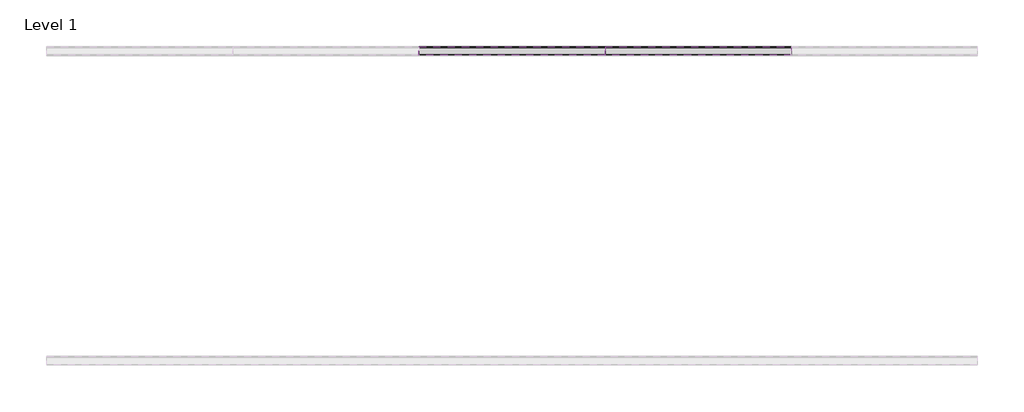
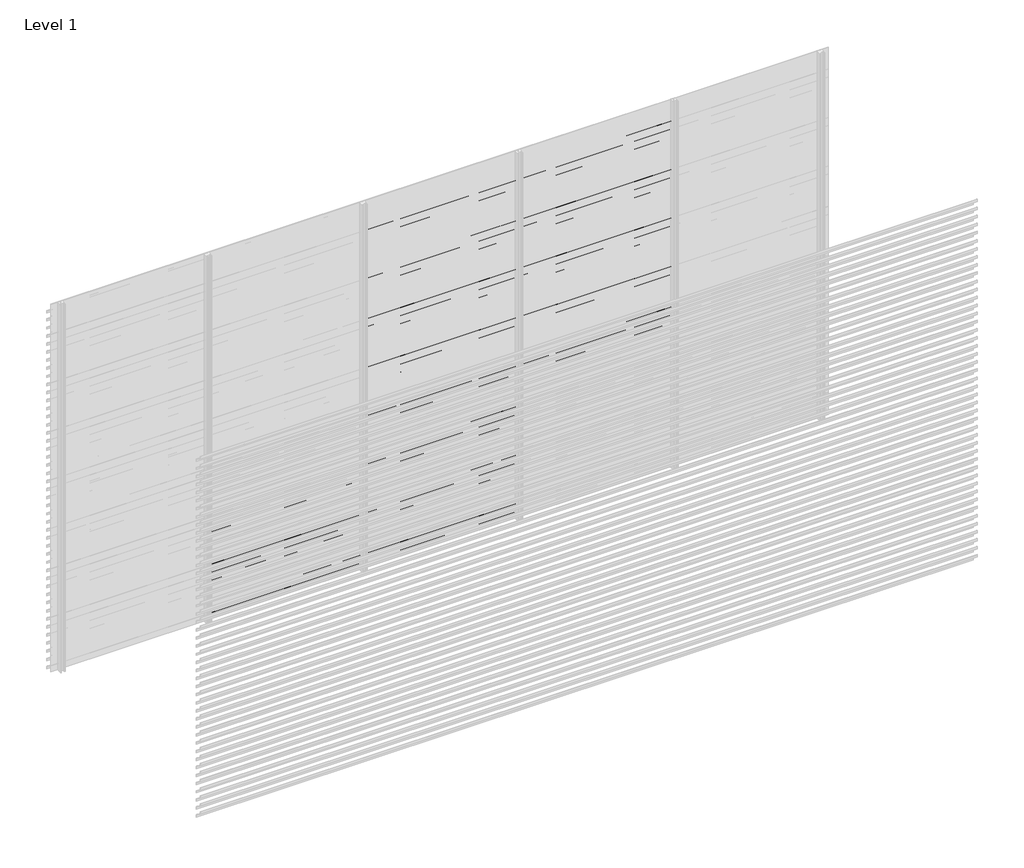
# One storey, part 87 of 540: 84 proxies.
"""IFC4 building model written with IfcOpenShell, lengths in millimetres."""

from ifc_helpers import new_model, si_unit, frame, origin, place, context, project, spatial, polyline, outline, extrude, element, save

model = new_model("IFC4")

# Units and contexts
model_context = context("Model", 3, world=origin())
ifc_project = project(units=[si_unit("LENGTHUNIT", "METRE", prefix="MILLI")], contexts=[model_context])

# Site, building, storey
site = spatial("IfcSite", under=ifc_project)
building = spatial("IfcBuilding", under=site)
storey = spatial("IfcBuildingStorey", under=building, Name="Level 1", Elevation=0.0)

# Proxies
placement = place(None, origin())
element("IfcBuildingElementProxy", 1, Name="Wall Sweeps", at=placement, inside=storey, context=model_context, shape_type="SweptSolid", body=[
    extrude(outline(polyline([(59081.0540136, 669.5), (59081.0540136, 649.5), (59079.8040136, 650.2216933), (59079.8040136, 668.7872415), (59026.0540136, 706.3158044), (59026.0540136, 726.0), (59027.3040136, 726.0), (59027.3040136, 707.0285629), (59081.0540136, 669.5)])), frame((1666.6208099, 0.0, 0.0), z_axis=(1.0, 0.0, 0.0), x_axis=(0.0, 1.0, 0.0)), (0.0, 0.0, 1.0), 1199.9999999),
])
element("IfcBuildingElementProxy", 2, Name="Wall Sweeps", at=placement, inside=storey, context=model_context, shape_type="SweptSolid", body=[
    extrude(outline(polyline([(59081.0540136, 603.5), (59081.0540136, 583.5), (59079.8040136, 584.2216933), (59079.8040136, 602.7872415), (59026.0540136, 640.3158044), (59026.0540136, 660.0), (59027.3040136, 660.0), (59027.3040136, 641.0285629), (59081.0540136, 603.5)])), frame((1666.6208099, 0.0, 0.0), z_axis=(1.0, 0.0, 0.0), x_axis=(0.0, 1.0, 0.0)), (0.0, 0.0, 1.0), 1199.9999999),
])
element("IfcBuildingElementProxy", 3, Name="Wall Sweeps", at=placement, inside=storey, context=model_context, shape_type="SweptSolid", body=[
    extrude(outline(polyline([(59081.0540136, 537.5), (59081.0540136, 517.5), (59079.8040136, 518.2216933), (59079.8040136, 536.7872415), (59026.0540136, 574.3158044), (59026.0540136, 594.0), (59027.3040136, 594.0), (59027.3040136, 575.0285629), (59081.0540136, 537.5)])), frame((1666.6208099, 0.0, 0.0), z_axis=(1.0, 0.0, 0.0), x_axis=(0.0, 1.0, 0.0)), (0.0, 0.0, 1.0), 1199.9999999),
])
element("IfcBuildingElementProxy", 4, Name="Wall Sweeps", at=placement, inside=storey, context=model_context, shape_type="SweptSolid", body=[
    extrude(outline(polyline([(59081.0540136, 471.5), (59081.0540136, 451.5), (59079.8040136, 452.2216933), (59079.8040136, 470.7872415), (59026.0540136, 508.3158044), (59026.0540136, 528.0), (59027.3040136, 528.0), (59027.3040136, 509.0285629), (59081.0540136, 471.5)])), frame((1666.6208099, 0.0, 0.0), z_axis=(1.0, 0.0, 0.0), x_axis=(0.0, 1.0, 0.0)), (0.0, 0.0, 1.0), 1199.9999999),
])
element("IfcBuildingElementProxy", 5, Name="Wall Sweeps", at=placement, inside=storey, context=model_context, shape_type="SweptSolid", body=[
    extrude(outline(polyline([(59081.0540136, 405.5), (59081.0540136, 385.5), (59079.8040136, 386.2216933), (59079.8040136, 404.7872415), (59026.0540136, 442.3158044), (59026.0540136, 462.0), (59027.3040136, 462.0), (59027.3040136, 443.0285629), (59081.0540136, 405.5)])), frame((1666.6208099, 0.0, 0.0), z_axis=(1.0, 0.0, 0.0), x_axis=(0.0, 1.0, 0.0)), (0.0, 0.0, 1.0), 1199.9999999),
])
element("IfcBuildingElementProxy", 6, Name="Wall Sweeps", at=placement, inside=storey, context=model_context, shape_type="SweptSolid", body=[
    extrude(outline(polyline([(59081.0540136, 339.5), (59081.0540136, 319.5), (59079.8040136, 320.2216933), (59079.8040136, 338.7872415), (59026.0540136, 376.3158044), (59026.0540136, 396.0), (59027.3040136, 396.0), (59027.3040136, 377.0285629), (59081.0540136, 339.5)])), frame((1666.6208099, 0.0, 0.0), z_axis=(1.0, 0.0, 0.0), x_axis=(0.0, 1.0, 0.0)), (0.0, 0.0, 1.0), 1199.9999999),
])
element("IfcBuildingElementProxy", 7, Name="Wall Sweeps", at=placement, inside=storey, context=model_context, shape_type="SweptSolid", body=[
    extrude(outline(polyline([(59081.0540136, 273.5), (59081.0540136, 253.5), (59079.8040136, 254.2216933), (59079.8040136, 272.7872415), (59026.0540136, 310.3158044), (59026.0540136, 330.0), (59027.3040136, 330.0), (59027.3040136, 311.0285629), (59081.0540136, 273.5)])), frame((1666.6208099, 0.0, 0.0), z_axis=(1.0, 0.0, 0.0), x_axis=(0.0, 1.0, 0.0)), (0.0, 0.0, 1.0), 1199.9999999),
])
element("IfcBuildingElementProxy", 8, Name="Wall Sweeps", at=placement, inside=storey, context=model_context, shape_type="SweptSolid", body=[
    extrude(outline(polyline([(59081.0540136, 207.5), (59081.0540136, 187.5), (59079.8040136, 188.2216933), (59079.8040136, 206.7872415), (59026.0540136, 244.3158044), (59026.0540136, 264.0), (59027.3040136, 264.0), (59027.3040136, 245.0285629), (59081.0540136, 207.5)])), frame((1666.6208099, 0.0, 0.0), z_axis=(1.0, 0.0, 0.0), x_axis=(0.0, 1.0, 0.0)), (0.0, 0.0, 1.0), 1199.9999999),
])
element("IfcBuildingElementProxy", 9, Name="Wall Sweeps", at=placement, inside=storey, context=model_context, shape_type="SweptSolid", body=[
    extrude(outline(polyline([(59081.0540136, 141.5), (59081.0540136, 121.5), (59079.8040136, 122.2216933), (59079.8040136, 140.7872415), (59026.0540136, 178.3158044), (59026.0540136, 198.0), (59027.3040136, 198.0), (59027.3040136, 179.0285629), (59081.0540136, 141.5)])), frame((1666.6208099, 0.0, 0.0), z_axis=(1.0, 0.0, 0.0), x_axis=(0.0, 1.0, 0.0)), (0.0, 0.0, 1.0), 1199.9999999),
])
element("IfcBuildingElementProxy", 10, Name="Wall Sweeps", at=placement, inside=storey, context=model_context, shape_type="SweptSolid", body=[
    extrude(outline(polyline([(59081.0540136, 75.5), (59081.0540136, 55.5), (59079.8040136, 56.2216933), (59079.8040136, 74.7872415), (59026.0540136, 112.3158044), (59026.0540136, 132.0), (59027.3040136, 132.0), (59027.3040136, 113.0285629), (59081.0540136, 75.5)])), frame((1666.6208099, 0.0, 0.0), z_axis=(1.0, 0.0, 0.0), x_axis=(0.0, 1.0, 0.0)), (0.0, 0.0, 1.0), 1199.9999999),
])
element("IfcBuildingElementProxy", 11, Name="Wall Sweeps", at=placement, inside=storey, context=model_context, shape_type="SweptSolid", body=[
    extrude(outline(polyline([(59081.0540136, 9.5), (59081.0540136, -10.5), (59079.8040136, -9.7783067), (59079.8040136, 8.7872415), (59026.0540136, 46.3158044), (59026.0540136, 66.0), (59027.3040136, 66.0), (59027.3040136, 47.0285629), (59081.0540136, 9.5)])), frame((1666.6208099, 0.0, 0.0), z_axis=(1.0, 0.0, 0.0), x_axis=(0.0, 1.0, 0.0)), (0.0, 0.0, 1.0), 1199.9999999),
])
element("IfcBuildingElementProxy", 12, Name="Wall Sweeps", at=placement, inside=storey, context=model_context, shape_type="SweptSolid", body=[
    extrude(outline(polyline([(59081.0540136, 2913.5), (59081.0540136, 2893.5), (59079.8040136, 2894.2216933), (59079.8040136, 2912.7872415), (59026.0540136, 2950.3158044), (59026.0540136, 2970.0), (59027.3040136, 2970.0), (59027.3040136, 2951.0285629), (59081.0540136, 2913.5)])), frame((2866.6208097, 0.0, 0.0), z_axis=(1.0, 0.0, 0.0), x_axis=(0.0, 1.0, 0.0)), (0.0, 0.0, 1.0), 1199.9999999),
])
element("IfcBuildingElementProxy", 13, Name="Wall Sweeps", at=placement, inside=storey, context=model_context, shape_type="SweptSolid", body=[
    extrude(outline(polyline([(59081.0540136, 2847.5), (59081.0540136, 2827.5), (59079.8040136, 2828.2216933), (59079.8040136, 2846.7872415), (59026.0540136, 2884.3158044), (59026.0540136, 2904.0), (59027.3040136, 2904.0), (59027.3040136, 2885.0285629), (59081.0540136, 2847.5)])), frame((2866.6208097, 0.0, 0.0), z_axis=(1.0, 0.0, 0.0), x_axis=(0.0, 1.0, 0.0)), (0.0, 0.0, 1.0), 1199.9999999),
])
element("IfcBuildingElementProxy", 14, Name="Wall Sweeps", at=placement, inside=storey, context=model_context, shape_type="SweptSolid", body=[
    extrude(outline(polyline([(59081.0540136, 2781.5), (59081.0540136, 2761.5), (59079.8040136, 2762.2216933), (59079.8040136, 2780.7872415), (59026.0540136, 2818.3158044), (59026.0540136, 2838.0), (59027.3040136, 2838.0), (59027.3040136, 2819.0285629), (59081.0540136, 2781.5)])), frame((2866.6208097, 0.0, 0.0), z_axis=(1.0, 0.0, 0.0), x_axis=(0.0, 1.0, 0.0)), (0.0, 0.0, 1.0), 1199.9999999),
])
element("IfcBuildingElementProxy", 15, Name="Wall Sweeps", at=placement, inside=storey, context=model_context, shape_type="SweptSolid", body=[
    extrude(outline(polyline([(59081.0540136, 2715.5), (59081.0540136, 2695.5), (59079.8040136, 2696.2216933), (59079.8040136, 2714.7872415), (59026.0540136, 2752.3158044), (59026.0540136, 2772.0), (59027.3040136, 2772.0), (59027.3040136, 2753.0285629), (59081.0540136, 2715.5)])), frame((2866.6208097, 0.0, 0.0), z_axis=(1.0, 0.0, 0.0), x_axis=(0.0, 1.0, 0.0)), (0.0, 0.0, 1.0), 1199.9999999),
])
element("IfcBuildingElementProxy", 16, Name="Wall Sweeps", at=placement, inside=storey, context=model_context, shape_type="SweptSolid", body=[
    extrude(outline(polyline([(59081.0540136, 2649.5), (59081.0540136, 2629.5), (59079.8040136, 2630.2216933), (59079.8040136, 2648.7872415), (59026.0540136, 2686.3158044), (59026.0540136, 2706.0), (59027.3040136, 2706.0), (59027.3040136, 2687.0285629), (59081.0540136, 2649.5)])), frame((2866.6208097, 0.0, 0.0), z_axis=(1.0, 0.0, 0.0), x_axis=(0.0, 1.0, 0.0)), (0.0, 0.0, 1.0), 1199.9999999),
])
element("IfcBuildingElementProxy", 17, Name="Wall Sweeps", at=placement, inside=storey, context=model_context, shape_type="SweptSolid", body=[
    extrude(outline(polyline([(59081.0540136, 2583.5), (59081.0540136, 2563.5), (59079.8040136, 2564.2216933), (59079.8040136, 2582.7872415), (59026.0540136, 2620.3158044), (59026.0540136, 2640.0), (59027.3040136, 2640.0), (59027.3040136, 2621.0285629), (59081.0540136, 2583.5)])), frame((2866.6208097, 0.0, 0.0), z_axis=(1.0, 0.0, 0.0), x_axis=(0.0, 1.0, 0.0)), (0.0, 0.0, 1.0), 1199.9999999),
])
element("IfcBuildingElementProxy", 18, Name="Wall Sweeps", at=placement, inside=storey, context=model_context, shape_type="SweptSolid", body=[
    extrude(outline(polyline([(59081.0540136, 2517.5), (59081.0540136, 2497.5), (59079.8040136, 2498.2216933), (59079.8040136, 2516.7872415), (59026.0540136, 2554.3158044), (59026.0540136, 2574.0), (59027.3040136, 2574.0), (59027.3040136, 2555.0285629), (59081.0540136, 2517.5)])), frame((2866.6208097, 0.0, 0.0), z_axis=(1.0, 0.0, 0.0), x_axis=(0.0, 1.0, 0.0)), (0.0, 0.0, 1.0), 1199.9999999),
])
element("IfcBuildingElementProxy", 19, Name="Wall Sweeps", at=placement, inside=storey, context=model_context, shape_type="SweptSolid", body=[
    extrude(outline(polyline([(59081.0540136, 2451.5), (59081.0540136, 2431.5), (59079.8040136, 2432.2216933), (59079.8040136, 2450.7872415), (59026.0540136, 2488.3158044), (59026.0540136, 2508.0), (59027.3040136, 2508.0), (59027.3040136, 2489.0285629), (59081.0540136, 2451.5)])), frame((2866.6208097, 0.0, 0.0), z_axis=(1.0, 0.0, 0.0), x_axis=(0.0, 1.0, 0.0)), (0.0, 0.0, 1.0), 1199.9999999),
])
element("IfcBuildingElementProxy", 20, Name="Wall Sweeps", at=placement, inside=storey, context=model_context, shape_type="SweptSolid", body=[
    extrude(outline(polyline([(59081.0540136, 2385.5), (59081.0540136, 2365.5), (59079.8040136, 2366.2216933), (59079.8040136, 2384.7872415), (59026.0540136, 2422.3158044), (59026.0540136, 2442.0), (59027.3040136, 2442.0), (59027.3040136, 2423.0285629), (59081.0540136, 2385.5)])), frame((2866.6208097, 0.0, 0.0), z_axis=(1.0, 0.0, 0.0), x_axis=(0.0, 1.0, 0.0)), (0.0, 0.0, 1.0), 1199.9999999),
])
element("IfcBuildingElementProxy", 21, Name="Wall Sweeps", at=placement, inside=storey, context=model_context, shape_type="SweptSolid", body=[
    extrude(outline(polyline([(59081.0540136, 2319.5), (59081.0540136, 2299.5), (59079.8040136, 2300.2216933), (59079.8040136, 2318.7872415), (59026.0540136, 2356.3158044), (59026.0540136, 2376.0), (59027.3040136, 2376.0), (59027.3040136, 2357.0285629), (59081.0540136, 2319.5)])), frame((2866.6208097, 0.0, 0.0), z_axis=(1.0, 0.0, 0.0), x_axis=(0.0, 1.0, 0.0)), (0.0, 0.0, 1.0), 1199.9999999),
])
element("IfcBuildingElementProxy", 22, Name="Wall Sweeps", at=placement, inside=storey, context=model_context, shape_type="SweptSolid", body=[
    extrude(outline(polyline([(59081.0540136, 2253.5), (59081.0540136, 2233.5), (59079.8040136, 2234.2216933), (59079.8040136, 2252.7872415), (59026.0540136, 2290.3158044), (59026.0540136, 2310.0), (59027.3040136, 2310.0), (59027.3040136, 2291.0285629), (59081.0540136, 2253.5)])), frame((2866.6208097, 0.0, 0.0), z_axis=(1.0, 0.0, 0.0), x_axis=(0.0, 1.0, 0.0)), (0.0, 0.0, 1.0), 1199.9999999),
])
element("IfcBuildingElementProxy", 23, Name="Wall Sweeps", at=placement, inside=storey, context=model_context, shape_type="SweptSolid", body=[
    extrude(outline(polyline([(59081.0540136, 2187.5), (59081.0540136, 2167.5), (59079.8040136, 2168.2216933), (59079.8040136, 2186.7872415), (59026.0540136, 2224.3158044), (59026.0540136, 2244.0), (59027.3040136, 2244.0), (59027.3040136, 2225.0285629), (59081.0540136, 2187.5)])), frame((2866.6208097, 0.0, 0.0), z_axis=(1.0, 0.0, 0.0), x_axis=(0.0, 1.0, 0.0)), (0.0, 0.0, 1.0), 1199.9999999),
])
element("IfcBuildingElementProxy", 24, Name="Wall Sweeps", at=placement, inside=storey, context=model_context, shape_type="SweptSolid", body=[
    extrude(outline(polyline([(59081.0540136, 2121.5), (59081.0540136, 2101.5), (59079.8040136, 2102.2216933), (59079.8040136, 2120.7872415), (59026.0540136, 2158.3158044), (59026.0540136, 2178.0), (59027.3040136, 2178.0), (59027.3040136, 2159.0285629), (59081.0540136, 2121.5)])), frame((2866.6208097, 0.0, 0.0), z_axis=(1.0, 0.0, 0.0), x_axis=(0.0, 1.0, 0.0)), (0.0, 0.0, 1.0), 1199.9999999),
])
element("IfcBuildingElementProxy", 25, Name="Wall Sweeps", at=placement, inside=storey, context=model_context, shape_type="SweptSolid", body=[
    extrude(outline(polyline([(59081.0540136, 2055.5), (59081.0540136, 2035.5), (59079.8040136, 2036.2216933), (59079.8040136, 2054.7872415), (59026.0540136, 2092.3158044), (59026.0540136, 2112.0), (59027.3040136, 2112.0), (59027.3040136, 2093.0285629), (59081.0540136, 2055.5)])), frame((2866.6208097, 0.0, 0.0), z_axis=(1.0, 0.0, 0.0), x_axis=(0.0, 1.0, 0.0)), (0.0, 0.0, 1.0), 1199.9999999),
])
element("IfcBuildingElementProxy", 26, Name="Wall Sweeps", at=placement, inside=storey, context=model_context, shape_type="SweptSolid", body=[
    extrude(outline(polyline([(59081.0540136, 1989.5), (59081.0540136, 1969.5), (59079.8040136, 1970.2216933), (59079.8040136, 1988.7872415), (59026.0540136, 2026.3158044), (59026.0540136, 2046.0), (59027.3040136, 2046.0), (59027.3040136, 2027.0285629), (59081.0540136, 1989.5)])), frame((2866.6208097, 0.0, 0.0), z_axis=(1.0, 0.0, 0.0), x_axis=(0.0, 1.0, 0.0)), (0.0, 0.0, 1.0), 1199.9999999),
])
element("IfcBuildingElementProxy", 27, Name="Wall Sweeps", at=placement, inside=storey, context=model_context, shape_type="SweptSolid", body=[
    extrude(outline(polyline([(59081.0540136, 1923.5), (59081.0540136, 1903.5), (59079.8040136, 1904.2216933), (59079.8040136, 1922.7872415), (59026.0540136, 1960.3158044), (59026.0540136, 1980.0), (59027.3040136, 1980.0), (59027.3040136, 1961.0285629), (59081.0540136, 1923.5)])), frame((2866.6208097, 0.0, 0.0), z_axis=(1.0, 0.0, 0.0), x_axis=(0.0, 1.0, 0.0)), (0.0, 0.0, 1.0), 1199.9999999),
])
element("IfcBuildingElementProxy", 28, Name="Wall Sweeps", at=placement, inside=storey, context=model_context, shape_type="SweptSolid", body=[
    extrude(outline(polyline([(59081.0540136, 1857.5), (59081.0540136, 1837.5), (59079.8040136, 1838.2216933), (59079.8040136, 1856.7872415), (59026.0540136, 1894.3158044), (59026.0540136, 1914.0), (59027.3040136, 1914.0), (59027.3040136, 1895.0285629), (59081.0540136, 1857.5)])), frame((2866.6208097, 0.0, 0.0), z_axis=(1.0, 0.0, 0.0), x_axis=(0.0, 1.0, 0.0)), (0.0, 0.0, 1.0), 1199.9999999),
])
element("IfcBuildingElementProxy", 29, Name="Wall Sweeps", at=placement, inside=storey, context=model_context, shape_type="SweptSolid", body=[
    extrude(outline(polyline([(59081.0540136, 1791.5), (59081.0540136, 1771.5), (59079.8040136, 1772.2216933), (59079.8040136, 1790.7872415), (59026.0540136, 1828.3158044), (59026.0540136, 1848.0), (59027.3040136, 1848.0), (59027.3040136, 1829.0285629), (59081.0540136, 1791.5)])), frame((2866.6208097, 0.0, 0.0), z_axis=(1.0, 0.0, 0.0), x_axis=(0.0, 1.0, 0.0)), (0.0, 0.0, 1.0), 1199.9999999),
])
element("IfcBuildingElementProxy", 30, Name="Wall Sweeps", at=placement, inside=storey, context=model_context, shape_type="SweptSolid", body=[
    extrude(outline(polyline([(59081.0540136, 1725.5), (59081.0540136, 1705.5), (59079.8040136, 1706.2216933), (59079.8040136, 1724.7872415), (59026.0540136, 1762.3158044), (59026.0540136, 1782.0), (59027.3040136, 1782.0), (59027.3040136, 1763.0285629), (59081.0540136, 1725.5)])), frame((2866.6208097, 0.0, 0.0), z_axis=(1.0, 0.0, 0.0), x_axis=(0.0, 1.0, 0.0)), (0.0, 0.0, 1.0), 1199.9999999),
])
element("IfcBuildingElementProxy", 31, Name="Wall Sweeps", at=placement, inside=storey, context=model_context, shape_type="SweptSolid", body=[
    extrude(outline(polyline([(59081.0540136, 1659.5), (59081.0540136, 1639.5), (59079.8040136, 1640.2216933), (59079.8040136, 1658.7872415), (59026.0540136, 1696.3158044), (59026.0540136, 1716.0), (59027.3040136, 1716.0), (59027.3040136, 1697.0285629), (59081.0540136, 1659.5)])), frame((2866.6208097, 0.0, 0.0), z_axis=(1.0, 0.0, 0.0), x_axis=(0.0, 1.0, 0.0)), (0.0, 0.0, 1.0), 1199.9999999),
])
element("IfcBuildingElementProxy", 32, Name="Wall Sweeps", at=placement, inside=storey, context=model_context, shape_type="SweptSolid", body=[
    extrude(outline(polyline([(59081.0540136, 1593.5), (59081.0540136, 1573.5), (59079.8040136, 1574.2216933), (59079.8040136, 1592.7872415), (59026.0540136, 1630.3158044), (59026.0540136, 1650.0), (59027.3040136, 1650.0), (59027.3040136, 1631.0285629), (59081.0540136, 1593.5)])), frame((2866.6208097, 0.0, 0.0), z_axis=(1.0, 0.0, 0.0), x_axis=(0.0, 1.0, 0.0)), (0.0, 0.0, 1.0), 1199.9999999),
])
element("IfcBuildingElementProxy", 33, Name="Wall Sweeps", at=placement, inside=storey, context=model_context, shape_type="SweptSolid", body=[
    extrude(outline(polyline([(59081.0540136, 1527.5), (59081.0540136, 1507.5), (59079.8040136, 1508.2216933), (59079.8040136, 1526.7872415), (59026.0540136, 1564.3158044), (59026.0540136, 1584.0), (59027.3040136, 1584.0), (59027.3040136, 1565.0285629), (59081.0540136, 1527.5)])), frame((2866.6208097, 0.0, 0.0), z_axis=(1.0, 0.0, 0.0), x_axis=(0.0, 1.0, 0.0)), (0.0, 0.0, 1.0), 1199.9999999),
])
element("IfcBuildingElementProxy", 34, Name="Wall Sweeps", at=placement, inside=storey, context=model_context, shape_type="SweptSolid", body=[
    extrude(outline(polyline([(59081.0540136, 1461.5), (59081.0540136, 1441.5), (59079.8040136, 1442.2216933), (59079.8040136, 1460.7872415), (59026.0540136, 1498.3158044), (59026.0540136, 1518.0), (59027.3040136, 1518.0), (59027.3040136, 1499.0285629), (59081.0540136, 1461.5)])), frame((2866.6208097, 0.0, 0.0), z_axis=(1.0, 0.0, 0.0), x_axis=(0.0, 1.0, 0.0)), (0.0, 0.0, 1.0), 1199.9999999),
])
element("IfcBuildingElementProxy", 35, Name="Wall Sweeps", at=placement, inside=storey, context=model_context, shape_type="SweptSolid", body=[
    extrude(outline(polyline([(59081.0540136, 1395.5), (59081.0540136, 1375.5), (59079.8040136, 1376.2216933), (59079.8040136, 1394.7872415), (59026.0540136, 1432.3158044), (59026.0540136, 1452.0), (59027.3040136, 1452.0), (59027.3040136, 1433.0285629), (59081.0540136, 1395.5)])), frame((2866.6208097, 0.0, 0.0), z_axis=(1.0, 0.0, 0.0), x_axis=(0.0, 1.0, 0.0)), (0.0, 0.0, 1.0), 1199.9999999),
])
element("IfcBuildingElementProxy", 36, Name="Wall Sweeps", at=placement, inside=storey, context=model_context, shape_type="SweptSolid", body=[
    extrude(outline(polyline([(59081.0540136, 1329.5), (59081.0540136, 1309.5), (59079.8040136, 1310.2216933), (59079.8040136, 1328.7872415), (59026.0540136, 1366.3158044), (59026.0540136, 1386.0), (59027.3040136, 1386.0), (59027.3040136, 1367.0285629), (59081.0540136, 1329.5)])), frame((2866.6208097, 0.0, 0.0), z_axis=(1.0, 0.0, 0.0), x_axis=(0.0, 1.0, 0.0)), (0.0, 0.0, 1.0), 1199.9999999),
])
element("IfcBuildingElementProxy", 37, Name="Wall Sweeps", at=placement, inside=storey, context=model_context, shape_type="SweptSolid", body=[
    extrude(outline(polyline([(59081.0540136, 1263.5), (59081.0540136, 1243.5), (59079.8040136, 1244.2216933), (59079.8040136, 1262.7872415), (59026.0540136, 1300.3158044), (59026.0540136, 1320.0), (59027.3040136, 1320.0), (59027.3040136, 1301.0285629), (59081.0540136, 1263.5)])), frame((2866.6208097, 0.0, 0.0), z_axis=(1.0, 0.0, 0.0), x_axis=(0.0, 1.0, 0.0)), (0.0, 0.0, 1.0), 1199.9999999),
])
element("IfcBuildingElementProxy", 38, Name="Wall Sweeps", at=placement, inside=storey, context=model_context, shape_type="SweptSolid", body=[
    extrude(outline(polyline([(59081.0540136, 1197.5), (59081.0540136, 1177.5), (59079.8040136, 1178.2216933), (59079.8040136, 1196.7872415), (59026.0540136, 1234.3158044), (59026.0540136, 1254.0), (59027.3040136, 1254.0), (59027.3040136, 1235.0285629), (59081.0540136, 1197.5)])), frame((2866.6208097, 0.0, 0.0), z_axis=(1.0, 0.0, 0.0), x_axis=(0.0, 1.0, 0.0)), (0.0, 0.0, 1.0), 1199.9999999),
])
element("IfcBuildingElementProxy", 39, Name="Wall Sweeps", at=placement, inside=storey, context=model_context, shape_type="SweptSolid", body=[
    extrude(outline(polyline([(59081.0540136, 1131.5), (59081.0540136, 1111.5), (59079.8040136, 1112.2216933), (59079.8040136, 1130.7872415), (59026.0540136, 1168.3158044), (59026.0540136, 1188.0), (59027.3040136, 1188.0), (59027.3040136, 1169.0285629), (59081.0540136, 1131.5)])), frame((2866.6208097, 0.0, 0.0), z_axis=(1.0, 0.0, 0.0), x_axis=(0.0, 1.0, 0.0)), (0.0, 0.0, 1.0), 1199.9999999),
])
element("IfcBuildingElementProxy", 40, Name="Wall Sweeps", at=placement, inside=storey, context=model_context, shape_type="SweptSolid", body=[
    extrude(outline(polyline([(59081.0540136, 1065.5), (59081.0540136, 1045.5), (59079.8040136, 1046.2216933), (59079.8040136, 1064.7872415), (59026.0540136, 1102.3158044), (59026.0540136, 1122.0), (59027.3040136, 1122.0), (59027.3040136, 1103.0285629), (59081.0540136, 1065.5)])), frame((2866.6208097, 0.0, 0.0), z_axis=(1.0, 0.0, 0.0), x_axis=(0.0, 1.0, 0.0)), (0.0, 0.0, 1.0), 1199.9999999),
])
element("IfcBuildingElementProxy", 41, Name="Wall Sweeps", at=placement, inside=storey, context=model_context, shape_type="SweptSolid", body=[
    extrude(outline(polyline([(59081.0540136, 999.5), (59081.0540136, 979.5), (59079.8040136, 980.2216933), (59079.8040136, 998.7872415), (59026.0540136, 1036.3158044), (59026.0540136, 1056.0), (59027.3040136, 1056.0), (59027.3040136, 1037.0285629), (59081.0540136, 999.5)])), frame((2866.6208097, 0.0, 0.0), z_axis=(1.0, 0.0, 0.0), x_axis=(0.0, 1.0, 0.0)), (0.0, 0.0, 1.0), 1199.9999999),
])
element("IfcBuildingElementProxy", 42, Name="Wall Sweeps", at=placement, inside=storey, context=model_context, shape_type="SweptSolid", body=[
    extrude(outline(polyline([(59081.0540136, 933.5), (59081.0540136, 913.5), (59079.8040136, 914.2216933), (59079.8040136, 932.7872415), (59026.0540136, 970.3158044), (59026.0540136, 990.0), (59027.3040136, 990.0), (59027.3040136, 971.0285629), (59081.0540136, 933.5)])), frame((2866.6208097, 0.0, 0.0), z_axis=(1.0, 0.0, 0.0), x_axis=(0.0, 1.0, 0.0)), (0.0, 0.0, 1.0), 1199.9999999),
])
element("IfcBuildingElementProxy", 43, Name="Wall Sweeps", at=placement, inside=storey, context=model_context, shape_type="SweptSolid", body=[
    extrude(outline(polyline([(59081.0540136, 867.5), (59081.0540136, 847.5), (59079.8040136, 848.2216933), (59079.8040136, 866.7872415), (59026.0540136, 904.3158044), (59026.0540136, 924.0), (59027.3040136, 924.0), (59027.3040136, 905.0285629), (59081.0540136, 867.5)])), frame((2866.6208097, 0.0, 0.0), z_axis=(1.0, 0.0, 0.0), x_axis=(0.0, 1.0, 0.0)), (0.0, 0.0, 1.0), 1199.9999999),
])
element("IfcBuildingElementProxy", 44, Name="Wall Sweeps", at=placement, inside=storey, context=model_context, shape_type="SweptSolid", body=[
    extrude(outline(polyline([(59081.0540136, 801.5), (59081.0540136, 781.5), (59079.8040136, 782.2216933), (59079.8040136, 800.7872415), (59026.0540136, 838.3158044), (59026.0540136, 858.0), (59027.3040136, 858.0), (59027.3040136, 839.0285629), (59081.0540136, 801.5)])), frame((2866.6208097, 0.0, 0.0), z_axis=(1.0, 0.0, 0.0), x_axis=(0.0, 1.0, 0.0)), (0.0, 0.0, 1.0), 1199.9999999),
])
element("IfcBuildingElementProxy", 45, Name="Wall Sweeps", at=placement, inside=storey, context=model_context, shape_type="SweptSolid", body=[
    extrude(outline(polyline([(59081.0540136, 735.5), (59081.0540136, 715.5), (59079.8040136, 716.2216933), (59079.8040136, 734.7872415), (59026.0540136, 772.3158044), (59026.0540136, 792.0), (59027.3040136, 792.0), (59027.3040136, 773.0285629), (59081.0540136, 735.5)])), frame((2866.6208097, 0.0, 0.0), z_axis=(1.0, 0.0, 0.0), x_axis=(0.0, 1.0, 0.0)), (0.0, 0.0, 1.0), 1199.9999999),
])
element("IfcBuildingElementProxy", 46, Name="Wall Sweeps", at=placement, inside=storey, context=model_context, shape_type="SweptSolid", body=[
    extrude(outline(polyline([(59081.0540136, 669.5), (59081.0540136, 649.5), (59079.8040136, 650.2216933), (59079.8040136, 668.7872415), (59026.0540136, 706.3158044), (59026.0540136, 726.0), (59027.3040136, 726.0), (59027.3040136, 707.0285629), (59081.0540136, 669.5)])), frame((2866.6208097, 0.0, 0.0), z_axis=(1.0, 0.0, 0.0), x_axis=(0.0, 1.0, 0.0)), (0.0, 0.0, 1.0), 1199.9999999),
])
element("IfcBuildingElementProxy", 47, Name="Wall Sweeps", at=placement, inside=storey, context=model_context, shape_type="SweptSolid", body=[
    extrude(outline(polyline([(59081.0540136, 603.5), (59081.0540136, 583.5), (59079.8040136, 584.2216933), (59079.8040136, 602.7872415), (59026.0540136, 640.3158044), (59026.0540136, 660.0), (59027.3040136, 660.0), (59027.3040136, 641.0285629), (59081.0540136, 603.5)])), frame((2866.6208097, 0.0, 0.0), z_axis=(1.0, 0.0, 0.0), x_axis=(0.0, 1.0, 0.0)), (0.0, 0.0, 1.0), 1199.9999999),
])
element("IfcBuildingElementProxy", 48, Name="Wall Sweeps", at=placement, inside=storey, context=model_context, shape_type="SweptSolid", body=[
    extrude(outline(polyline([(59081.0540136, 537.5), (59081.0540136, 517.5), (59079.8040136, 518.2216933), (59079.8040136, 536.7872415), (59026.0540136, 574.3158044), (59026.0540136, 594.0), (59027.3040136, 594.0), (59027.3040136, 575.0285629), (59081.0540136, 537.5)])), frame((2866.6208097, 0.0, 0.0), z_axis=(1.0, 0.0, 0.0), x_axis=(0.0, 1.0, 0.0)), (0.0, 0.0, 1.0), 1199.9999999),
])
element("IfcBuildingElementProxy", 49, Name="Wall Sweeps", at=placement, inside=storey, context=model_context, shape_type="SweptSolid", body=[
    extrude(outline(polyline([(59081.0540136, 471.5), (59081.0540136, 451.5), (59079.8040136, 452.2216933), (59079.8040136, 470.7872415), (59026.0540136, 508.3158044), (59026.0540136, 528.0), (59027.3040136, 528.0), (59027.3040136, 509.0285629), (59081.0540136, 471.5)])), frame((2866.6208097, 0.0, 0.0), z_axis=(1.0, 0.0, 0.0), x_axis=(0.0, 1.0, 0.0)), (0.0, 0.0, 1.0), 1199.9999999),
])
element("IfcBuildingElementProxy", 50, Name="Wall Sweeps", at=placement, inside=storey, context=model_context, shape_type="SweptSolid", body=[
    extrude(outline(polyline([(59081.0540136, 405.5), (59081.0540136, 385.5), (59079.8040136, 386.2216933), (59079.8040136, 404.7872415), (59026.0540136, 442.3158044), (59026.0540136, 462.0), (59027.3040136, 462.0), (59027.3040136, 443.0285629), (59081.0540136, 405.5)])), frame((2866.6208097, 0.0, 0.0), z_axis=(1.0, 0.0, 0.0), x_axis=(0.0, 1.0, 0.0)), (0.0, 0.0, 1.0), 1199.9999999),
])
element("IfcBuildingElementProxy", 51, Name="Wall Sweeps", at=placement, inside=storey, context=model_context, shape_type="SweptSolid", body=[
    extrude(outline(polyline([(59081.0540136, 339.5), (59081.0540136, 319.5), (59079.8040136, 320.2216933), (59079.8040136, 338.7872415), (59026.0540136, 376.3158044), (59026.0540136, 396.0), (59027.3040136, 396.0), (59027.3040136, 377.0285629), (59081.0540136, 339.5)])), frame((2866.6208097, 0.0, 0.0), z_axis=(1.0, 0.0, 0.0), x_axis=(0.0, 1.0, 0.0)), (0.0, 0.0, 1.0), 1199.9999999),
])
element("IfcBuildingElementProxy", 52, Name="Wall Sweeps", at=placement, inside=storey, context=model_context, shape_type="SweptSolid", body=[
    extrude(outline(polyline([(59081.0540136, 273.5), (59081.0540136, 253.5), (59079.8040136, 254.2216933), (59079.8040136, 272.7872415), (59026.0540136, 310.3158044), (59026.0540136, 330.0), (59027.3040136, 330.0), (59027.3040136, 311.0285629), (59081.0540136, 273.5)])), frame((2866.6208097, 0.0, 0.0), z_axis=(1.0, 0.0, 0.0), x_axis=(0.0, 1.0, 0.0)), (0.0, 0.0, 1.0), 1199.9999999),
])
element("IfcBuildingElementProxy", 53, Name="Wall Sweeps", at=placement, inside=storey, context=model_context, shape_type="SweptSolid", body=[
    extrude(outline(polyline([(59081.0540136, 207.5), (59081.0540136, 187.5), (59079.8040136, 188.2216933), (59079.8040136, 206.7872415), (59026.0540136, 244.3158044), (59026.0540136, 264.0), (59027.3040136, 264.0), (59027.3040136, 245.0285629), (59081.0540136, 207.5)])), frame((2866.6208097, 0.0, 0.0), z_axis=(1.0, 0.0, 0.0), x_axis=(0.0, 1.0, 0.0)), (0.0, 0.0, 1.0), 1199.9999999),
])
element("IfcBuildingElementProxy", 54, Name="Wall Sweeps", at=placement, inside=storey, context=model_context, shape_type="SweptSolid", body=[
    extrude(outline(polyline([(59081.0540136, 141.5), (59081.0540136, 121.5), (59079.8040136, 122.2216933), (59079.8040136, 140.7872415), (59026.0540136, 178.3158044), (59026.0540136, 198.0), (59027.3040136, 198.0), (59027.3040136, 179.0285629), (59081.0540136, 141.5)])), frame((2866.6208097, 0.0, 0.0), z_axis=(1.0, 0.0, 0.0), x_axis=(0.0, 1.0, 0.0)), (0.0, 0.0, 1.0), 1199.9999999),
])
element("IfcBuildingElementProxy", 55, Name="Wall Sweeps", at=placement, inside=storey, context=model_context, shape_type="SweptSolid", body=[
    extrude(outline(polyline([(59081.0540136, 75.5), (59081.0540136, 55.5), (59079.8040136, 56.2216933), (59079.8040136, 74.7872415), (59026.0540136, 112.3158044), (59026.0540136, 132.0), (59027.3040136, 132.0), (59027.3040136, 113.0285629), (59081.0540136, 75.5)])), frame((2866.6208097, 0.0, 0.0), z_axis=(1.0, 0.0, 0.0), x_axis=(0.0, 1.0, 0.0)), (0.0, 0.0, 1.0), 1199.9999999),
])
element("IfcBuildingElementProxy", 56, Name="Wall Sweeps", at=placement, inside=storey, context=model_context, shape_type="SweptSolid", body=[
    extrude(outline(polyline([(59081.0540136, 9.5), (59081.0540136, -10.5), (59079.8040136, -9.7783067), (59079.8040136, 8.7872415), (59026.0540136, 46.3158044), (59026.0540136, 66.0), (59027.3040136, 66.0), (59027.3040136, 47.0285629), (59081.0540136, 9.5)])), frame((2866.6208097, 0.0, 0.0), z_axis=(1.0, 0.0, 0.0), x_axis=(0.0, 1.0, 0.0)), (0.0, 0.0, 1.0), 1199.9999999),
])
element("IfcBuildingElementProxy", 57, Name="Wall Sweeps", at=placement, inside=storey, context=model_context, shape_type="SweptSolid", body=[
    extrude(outline(polyline([(59081.0540136, 2913.5), (59081.0540136, 2893.5), (59079.8040136, 2894.2216933), (59079.8040136, 2912.7872415), (59026.0540136, 2950.3158044), (59026.0540136, 2970.0), (59027.3040136, 2970.0), (59027.3040136, 2951.0285629), (59081.0540136, 2913.5)])), frame((4066.6208096, 0.0, 0.0), z_axis=(1.0, 0.0, 0.0), x_axis=(0.0, 1.0, 0.0)), (0.0, 0.0, 1.0), 1199.9999999),
])
element("IfcBuildingElementProxy", 58, Name="Wall Sweeps", at=placement, inside=storey, context=model_context, shape_type="SweptSolid", body=[
    extrude(outline(polyline([(59081.0540136, 2847.5), (59081.0540136, 2827.5), (59079.8040136, 2828.2216933), (59079.8040136, 2846.7872415), (59026.0540136, 2884.3158044), (59026.0540136, 2904.0), (59027.3040136, 2904.0), (59027.3040136, 2885.0285629), (59081.0540136, 2847.5)])), frame((4066.6208096, 0.0, 0.0), z_axis=(1.0, 0.0, 0.0), x_axis=(0.0, 1.0, 0.0)), (0.0, 0.0, 1.0), 1199.9999999),
])
element("IfcBuildingElementProxy", 59, Name="Wall Sweeps", at=placement, inside=storey, context=model_context, shape_type="SweptSolid", body=[
    extrude(outline(polyline([(59081.0540136, 2781.5), (59081.0540136, 2761.5), (59079.8040136, 2762.2216933), (59079.8040136, 2780.7872415), (59026.0540136, 2818.3158044), (59026.0540136, 2838.0), (59027.3040136, 2838.0), (59027.3040136, 2819.0285629), (59081.0540136, 2781.5)])), frame((4066.6208096, 0.0, 0.0), z_axis=(1.0, 0.0, 0.0), x_axis=(0.0, 1.0, 0.0)), (0.0, 0.0, 1.0), 1199.9999999),
])
element("IfcBuildingElementProxy", 60, Name="Wall Sweeps", at=placement, inside=storey, context=model_context, shape_type="SweptSolid", body=[
    extrude(outline(polyline([(59081.0540136, 2715.5), (59081.0540136, 2695.5), (59079.8040136, 2696.2216933), (59079.8040136, 2714.7872415), (59026.0540136, 2752.3158044), (59026.0540136, 2772.0), (59027.3040136, 2772.0), (59027.3040136, 2753.0285629), (59081.0540136, 2715.5)])), frame((4066.6208096, 0.0, 0.0), z_axis=(1.0, 0.0, 0.0), x_axis=(0.0, 1.0, 0.0)), (0.0, 0.0, 1.0), 1199.9999999),
])
element("IfcBuildingElementProxy", 61, Name="Wall Sweeps", at=placement, inside=storey, context=model_context, shape_type="SweptSolid", body=[
    extrude(outline(polyline([(59081.0540136, 2649.5), (59081.0540136, 2629.5), (59079.8040136, 2630.2216933), (59079.8040136, 2648.7872415), (59026.0540136, 2686.3158044), (59026.0540136, 2706.0), (59027.3040136, 2706.0), (59027.3040136, 2687.0285629), (59081.0540136, 2649.5)])), frame((4066.6208096, 0.0, 0.0), z_axis=(1.0, 0.0, 0.0), x_axis=(0.0, 1.0, 0.0)), (0.0, 0.0, 1.0), 1199.9999999),
])
element("IfcBuildingElementProxy", 62, Name="Wall Sweeps", at=placement, inside=storey, context=model_context, shape_type="SweptSolid", body=[
    extrude(outline(polyline([(59081.0540136, 2583.5), (59081.0540136, 2563.5), (59079.8040136, 2564.2216933), (59079.8040136, 2582.7872415), (59026.0540136, 2620.3158044), (59026.0540136, 2640.0), (59027.3040136, 2640.0), (59027.3040136, 2621.0285629), (59081.0540136, 2583.5)])), frame((4066.6208096, 0.0, 0.0), z_axis=(1.0, 0.0, 0.0), x_axis=(0.0, 1.0, 0.0)), (0.0, 0.0, 1.0), 1199.9999999),
])
element("IfcBuildingElementProxy", 63, Name="Wall Sweeps", at=placement, inside=storey, context=model_context, shape_type="SweptSolid", body=[
    extrude(outline(polyline([(59081.0540136, 2517.5), (59081.0540136, 2497.5), (59079.8040136, 2498.2216933), (59079.8040136, 2516.7872415), (59026.0540136, 2554.3158044), (59026.0540136, 2574.0), (59027.3040136, 2574.0), (59027.3040136, 2555.0285629), (59081.0540136, 2517.5)])), frame((4066.6208096, 0.0, 0.0), z_axis=(1.0, 0.0, 0.0), x_axis=(0.0, 1.0, 0.0)), (0.0, 0.0, 1.0), 1199.9999999),
])
element("IfcBuildingElementProxy", 64, Name="Wall Sweeps", at=placement, inside=storey, context=model_context, shape_type="SweptSolid", body=[
    extrude(outline(polyline([(59081.0540136, 2451.5), (59081.0540136, 2431.5), (59079.8040136, 2432.2216933), (59079.8040136, 2450.7872415), (59026.0540136, 2488.3158044), (59026.0540136, 2508.0), (59027.3040136, 2508.0), (59027.3040136, 2489.0285629), (59081.0540136, 2451.5)])), frame((4066.6208096, 0.0, 0.0), z_axis=(1.0, 0.0, 0.0), x_axis=(0.0, 1.0, 0.0)), (0.0, 0.0, 1.0), 1199.9999999),
])
element("IfcBuildingElementProxy", 65, Name="Wall Sweeps", at=placement, inside=storey, context=model_context, shape_type="SweptSolid", body=[
    extrude(outline(polyline([(59081.0540136, 2385.5), (59081.0540136, 2365.5), (59079.8040136, 2366.2216933), (59079.8040136, 2384.7872415), (59026.0540136, 2422.3158044), (59026.0540136, 2442.0), (59027.3040136, 2442.0), (59027.3040136, 2423.0285629), (59081.0540136, 2385.5)])), frame((4066.6208096, 0.0, 0.0), z_axis=(1.0, 0.0, 0.0), x_axis=(0.0, 1.0, 0.0)), (0.0, 0.0, 1.0), 1199.9999999),
])
element("IfcBuildingElementProxy", 66, Name="Wall Sweeps", at=placement, inside=storey, context=model_context, shape_type="SweptSolid", body=[
    extrude(outline(polyline([(59081.0540136, 2319.5), (59081.0540136, 2299.5), (59079.8040136, 2300.2216933), (59079.8040136, 2318.7872415), (59026.0540136, 2356.3158044), (59026.0540136, 2376.0), (59027.3040136, 2376.0), (59027.3040136, 2357.0285629), (59081.0540136, 2319.5)])), frame((4066.6208096, 0.0, 0.0), z_axis=(1.0, 0.0, 0.0), x_axis=(0.0, 1.0, 0.0)), (0.0, 0.0, 1.0), 1199.9999999),
])
element("IfcBuildingElementProxy", 67, Name="Wall Sweeps", at=placement, inside=storey, context=model_context, shape_type="SweptSolid", body=[
    extrude(outline(polyline([(59081.0540136, 2253.5), (59081.0540136, 2233.5), (59079.8040136, 2234.2216933), (59079.8040136, 2252.7872415), (59026.0540136, 2290.3158044), (59026.0540136, 2310.0), (59027.3040136, 2310.0), (59027.3040136, 2291.0285629), (59081.0540136, 2253.5)])), frame((4066.6208096, 0.0, 0.0), z_axis=(1.0, 0.0, 0.0), x_axis=(0.0, 1.0, 0.0)), (0.0, 0.0, 1.0), 1199.9999999),
])
element("IfcBuildingElementProxy", 68, Name="Wall Sweeps", at=placement, inside=storey, context=model_context, shape_type="SweptSolid", body=[
    extrude(outline(polyline([(59081.0540136, 2187.5), (59081.0540136, 2167.5), (59079.8040136, 2168.2216933), (59079.8040136, 2186.7872415), (59026.0540136, 2224.3158044), (59026.0540136, 2244.0), (59027.3040136, 2244.0), (59027.3040136, 2225.0285629), (59081.0540136, 2187.5)])), frame((4066.6208096, 0.0, 0.0), z_axis=(1.0, 0.0, 0.0), x_axis=(0.0, 1.0, 0.0)), (0.0, 0.0, 1.0), 1199.9999999),
])
element("IfcBuildingElementProxy", 69, Name="Wall Sweeps", at=placement, inside=storey, context=model_context, shape_type="SweptSolid", body=[
    extrude(outline(polyline([(59081.0540136, 2121.5), (59081.0540136, 2101.5), (59079.8040136, 2102.2216933), (59079.8040136, 2120.7872415), (59026.0540136, 2158.3158044), (59026.0540136, 2178.0), (59027.3040136, 2178.0), (59027.3040136, 2159.0285629), (59081.0540136, 2121.5)])), frame((4066.6208096, 0.0, 0.0), z_axis=(1.0, 0.0, 0.0), x_axis=(0.0, 1.0, 0.0)), (0.0, 0.0, 1.0), 1199.9999999),
])
element("IfcBuildingElementProxy", 70, Name="Wall Sweeps", at=placement, inside=storey, context=model_context, shape_type="SweptSolid", body=[
    extrude(outline(polyline([(59081.0540136, 2055.5), (59081.0540136, 2035.5), (59079.8040136, 2036.2216933), (59079.8040136, 2054.7872415), (59026.0540136, 2092.3158044), (59026.0540136, 2112.0), (59027.3040136, 2112.0), (59027.3040136, 2093.0285629), (59081.0540136, 2055.5)])), frame((4066.6208096, 0.0, 0.0), z_axis=(1.0, 0.0, 0.0), x_axis=(0.0, 1.0, 0.0)), (0.0, 0.0, 1.0), 1199.9999999),
])
element("IfcBuildingElementProxy", 71, Name="Wall Sweeps", at=placement, inside=storey, context=model_context, shape_type="SweptSolid", body=[
    extrude(outline(polyline([(59081.0540136, 1989.5), (59081.0540136, 1969.5), (59079.8040136, 1970.2216933), (59079.8040136, 1988.7872415), (59026.0540136, 2026.3158044), (59026.0540136, 2046.0), (59027.3040136, 2046.0), (59027.3040136, 2027.0285629), (59081.0540136, 1989.5)])), frame((4066.6208096, 0.0, 0.0), z_axis=(1.0, 0.0, 0.0), x_axis=(0.0, 1.0, 0.0)), (0.0, 0.0, 1.0), 1199.9999999),
])
element("IfcBuildingElementProxy", 72, Name="Wall Sweeps", at=placement, inside=storey, context=model_context, shape_type="SweptSolid", body=[
    extrude(outline(polyline([(59081.0540136, 1923.5), (59081.0540136, 1903.5), (59079.8040136, 1904.2216933), (59079.8040136, 1922.7872415), (59026.0540136, 1960.3158044), (59026.0540136, 1980.0), (59027.3040136, 1980.0), (59027.3040136, 1961.0285629), (59081.0540136, 1923.5)])), frame((4066.6208096, 0.0, 0.0), z_axis=(1.0, 0.0, 0.0), x_axis=(0.0, 1.0, 0.0)), (0.0, 0.0, 1.0), 1199.9999999),
])
element("IfcBuildingElementProxy", 73, Name="Wall Sweeps", at=placement, inside=storey, context=model_context, shape_type="SweptSolid", body=[
    extrude(outline(polyline([(59081.0540136, 1857.5), (59081.0540136, 1837.5), (59079.8040136, 1838.2216933), (59079.8040136, 1856.7872415), (59026.0540136, 1894.3158044), (59026.0540136, 1914.0), (59027.3040136, 1914.0), (59027.3040136, 1895.0285629), (59081.0540136, 1857.5)])), frame((4066.6208096, 0.0, 0.0), z_axis=(1.0, 0.0, 0.0), x_axis=(0.0, 1.0, 0.0)), (0.0, 0.0, 1.0), 1199.9999999),
])
element("IfcBuildingElementProxy", 74, Name="Wall Sweeps", at=placement, inside=storey, context=model_context, shape_type="SweptSolid", body=[
    extrude(outline(polyline([(59081.0540136, 1791.5), (59081.0540136, 1771.5), (59079.8040136, 1772.2216933), (59079.8040136, 1790.7872415), (59026.0540136, 1828.3158044), (59026.0540136, 1848.0), (59027.3040136, 1848.0), (59027.3040136, 1829.0285629), (59081.0540136, 1791.5)])), frame((4066.6208096, 0.0, 0.0), z_axis=(1.0, 0.0, 0.0), x_axis=(0.0, 1.0, 0.0)), (0.0, 0.0, 1.0), 1199.9999999),
])
element("IfcBuildingElementProxy", 75, Name="Wall Sweeps", at=placement, inside=storey, context=model_context, shape_type="SweptSolid", body=[
    extrude(outline(polyline([(59081.0540136, 1725.5), (59081.0540136, 1705.5), (59079.8040136, 1706.2216933), (59079.8040136, 1724.7872415), (59026.0540136, 1762.3158044), (59026.0540136, 1782.0), (59027.3040136, 1782.0), (59027.3040136, 1763.0285629), (59081.0540136, 1725.5)])), frame((4066.6208096, 0.0, 0.0), z_axis=(1.0, 0.0, 0.0), x_axis=(0.0, 1.0, 0.0)), (0.0, 0.0, 1.0), 1199.9999999),
])
element("IfcBuildingElementProxy", 76, Name="Wall Sweeps", at=placement, inside=storey, context=model_context, shape_type="SweptSolid", body=[
    extrude(outline(polyline([(59081.0540136, 1659.5), (59081.0540136, 1639.5), (59079.8040136, 1640.2216933), (59079.8040136, 1658.7872415), (59026.0540136, 1696.3158044), (59026.0540136, 1716.0), (59027.3040136, 1716.0), (59027.3040136, 1697.0285629), (59081.0540136, 1659.5)])), frame((4066.6208096, 0.0, 0.0), z_axis=(1.0, 0.0, 0.0), x_axis=(0.0, 1.0, 0.0)), (0.0, 0.0, 1.0), 1199.9999999),
])
element("IfcBuildingElementProxy", 77, Name="Wall Sweeps", at=placement, inside=storey, context=model_context, shape_type="SweptSolid", body=[
    extrude(outline(polyline([(59081.0540136, 1593.5), (59081.0540136, 1573.5), (59079.8040136, 1574.2216933), (59079.8040136, 1592.7872415), (59026.0540136, 1630.3158044), (59026.0540136, 1650.0), (59027.3040136, 1650.0), (59027.3040136, 1631.0285629), (59081.0540136, 1593.5)])), frame((4066.6208096, 0.0, 0.0), z_axis=(1.0, 0.0, 0.0), x_axis=(0.0, 1.0, 0.0)), (0.0, 0.0, 1.0), 1199.9999999),
])
element("IfcBuildingElementProxy", 78, Name="Wall Sweeps", at=placement, inside=storey, context=model_context, shape_type="SweptSolid", body=[
    extrude(outline(polyline([(59081.0540136, 1527.5), (59081.0540136, 1507.5), (59079.8040136, 1508.2216933), (59079.8040136, 1526.7872415), (59026.0540136, 1564.3158044), (59026.0540136, 1584.0), (59027.3040136, 1584.0), (59027.3040136, 1565.0285629), (59081.0540136, 1527.5)])), frame((4066.6208096, 0.0, 0.0), z_axis=(1.0, 0.0, 0.0), x_axis=(0.0, 1.0, 0.0)), (0.0, 0.0, 1.0), 1199.9999999),
])
element("IfcBuildingElementProxy", 79, Name="Wall Sweeps", at=placement, inside=storey, context=model_context, shape_type="SweptSolid", body=[
    extrude(outline(polyline([(59081.0540136, 1461.5), (59081.0540136, 1441.5), (59079.8040136, 1442.2216933), (59079.8040136, 1460.7872415), (59026.0540136, 1498.3158044), (59026.0540136, 1518.0), (59027.3040136, 1518.0), (59027.3040136, 1499.0285629), (59081.0540136, 1461.5)])), frame((4066.6208096, 0.0, 0.0), z_axis=(1.0, 0.0, 0.0), x_axis=(0.0, 1.0, 0.0)), (0.0, 0.0, 1.0), 1199.9999999),
])
element("IfcBuildingElementProxy", 80, Name="Wall Sweeps", at=placement, inside=storey, context=model_context, shape_type="SweptSolid", body=[
    extrude(outline(polyline([(59081.0540136, 1395.5), (59081.0540136, 1375.5), (59079.8040136, 1376.2216933), (59079.8040136, 1394.7872415), (59026.0540136, 1432.3158044), (59026.0540136, 1452.0), (59027.3040136, 1452.0), (59027.3040136, 1433.0285629), (59081.0540136, 1395.5)])), frame((4066.6208096, 0.0, 0.0), z_axis=(1.0, 0.0, 0.0), x_axis=(0.0, 1.0, 0.0)), (0.0, 0.0, 1.0), 1199.9999999),
])
element("IfcBuildingElementProxy", 81, Name="Wall Sweeps", at=placement, inside=storey, context=model_context, shape_type="SweptSolid", body=[
    extrude(outline(polyline([(59081.0540136, 1329.5), (59081.0540136, 1309.5), (59079.8040136, 1310.2216933), (59079.8040136, 1328.7872415), (59026.0540136, 1366.3158044), (59026.0540136, 1386.0), (59027.3040136, 1386.0), (59027.3040136, 1367.0285629), (59081.0540136, 1329.5)])), frame((4066.6208096, 0.0, 0.0), z_axis=(1.0, 0.0, 0.0), x_axis=(0.0, 1.0, 0.0)), (0.0, 0.0, 1.0), 1199.9999999),
])
element("IfcBuildingElementProxy", 82, Name="Wall Sweeps", at=placement, inside=storey, context=model_context, shape_type="SweptSolid", body=[
    extrude(outline(polyline([(59081.0540136, 1263.5), (59081.0540136, 1243.5), (59079.8040136, 1244.2216933), (59079.8040136, 1262.7872415), (59026.0540136, 1300.3158044), (59026.0540136, 1320.0), (59027.3040136, 1320.0), (59027.3040136, 1301.0285629), (59081.0540136, 1263.5)])), frame((4066.6208096, 0.0, 0.0), z_axis=(1.0, 0.0, 0.0), x_axis=(0.0, 1.0, 0.0)), (0.0, 0.0, 1.0), 1199.9999999),
])
element("IfcBuildingElementProxy", 83, Name="Wall Sweeps", at=placement, inside=storey, context=model_context, shape_type="SweptSolid", body=[
    extrude(outline(polyline([(59081.0540136, 1197.5), (59081.0540136, 1177.5), (59079.8040136, 1178.2216933), (59079.8040136, 1196.7872415), (59026.0540136, 1234.3158044), (59026.0540136, 1254.0), (59027.3040136, 1254.0), (59027.3040136, 1235.0285629), (59081.0540136, 1197.5)])), frame((4066.6208096, 0.0, 0.0), z_axis=(1.0, 0.0, 0.0), x_axis=(0.0, 1.0, 0.0)), (0.0, 0.0, 1.0), 1199.9999999),
])
element("IfcBuildingElementProxy", 84, Name="Wall Sweeps", at=placement, inside=storey, context=model_context, shape_type="SweptSolid", body=[
    extrude(outline(polyline([(59081.0540136, 1131.5), (59081.0540136, 1111.5), (59079.8040136, 1112.2216933), (59079.8040136, 1130.7872415), (59026.0540136, 1168.3158044), (59026.0540136, 1188.0), (59027.3040136, 1188.0), (59027.3040136, 1169.0285629), (59081.0540136, 1131.5)])), frame((4066.6208096, 0.0, 0.0), z_axis=(1.0, 0.0, 0.0), x_axis=(0.0, 1.0, 0.0)), (0.0, 0.0, 1.0), 1199.9999999),
])

save(model, "model.ifc")
